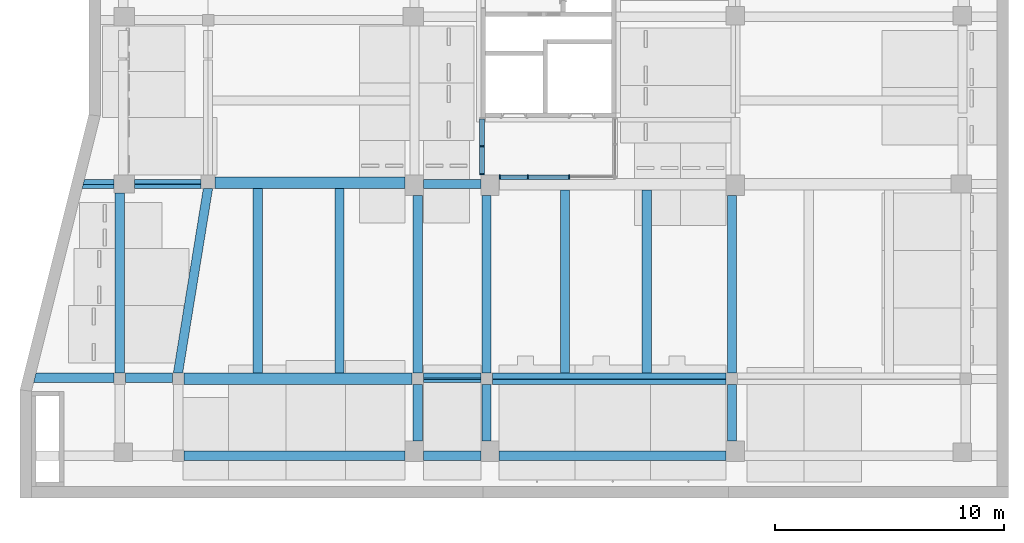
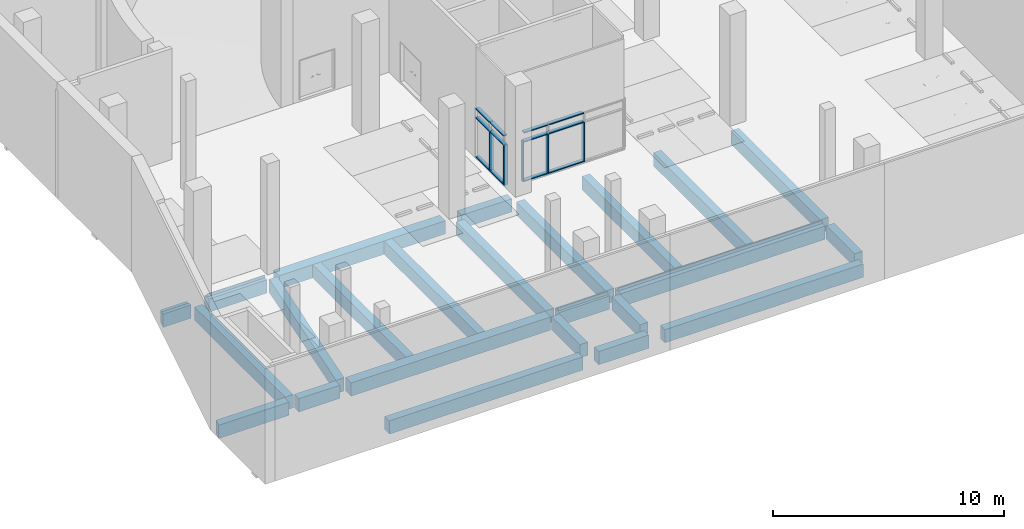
# One storey, part 2 of 29: 24 beams, 17 members, 2 elements without a shape of their own.
"""IFC2X3 building model written with IfcOpenShell, lengths in millimetres."""

from ifc_helpers import new_model, entity, si_unit, converted_unit, derived_unit, direction, frame, frame_2d, origin, origin_2d_with_axis, place, context, subcontext, project, spatial, polyline, rectangle, outline, extrude, clip, halfspace, source, transform, mapped, material, material_list, type_object, type_shapes, element, aggregate, save


model = new_model("IFC2X3")

# Units and contexts
model_context = context("Model", 3, precision=0.01, world=origin(), true_north=direction((6.123031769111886e-17, 1.0)))
body_context = subcontext(model_context, "Body", "Model", "MODEL_VIEW")
ifc_project = project(units=[si_unit("LENGTHUNIT", "METRE", prefix="MILLI"), si_unit("AREAUNIT", "SQUARE_METRE"), si_unit("VOLUMEUNIT", "CUBIC_METRE"), converted_unit("PLANEANGLEUNIT", "DEGREE", entity("IfcRatioMeasure", 0.017453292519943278), si_unit("PLANEANGLEUNIT", "RADIAN"), dimensions=[0, 0, 0, 0, 0, 0, 0]), si_unit("MASSUNIT", "GRAM", prefix="KILO"), derived_unit("MASSDENSITYUNIT", [(si_unit("MASSUNIT", "GRAM", prefix="KILO"), 1), (si_unit("LENGTHUNIT", "METRE"), -3)]), derived_unit("MOMENTOFINERTIAUNIT", [(si_unit("LENGTHUNIT", "METRE"), 4)]), si_unit("TIMEUNIT", "SECOND"), si_unit("FREQUENCYUNIT", "HERTZ"), si_unit("THERMODYNAMICTEMPERATUREUNIT", "DEGREE_CELSIUS"), derived_unit("THERMALTRANSMITTANCEUNIT", [(si_unit("MASSUNIT", "GRAM", prefix="KILO"), 1), (si_unit("THERMODYNAMICTEMPERATUREUNIT", "KELVIN"), -1), (si_unit("TIMEUNIT", "SECOND"), -3)]), derived_unit("VOLUMETRICFLOWRATEUNIT", [(si_unit("LENGTHUNIT", "METRE"), 3), (si_unit("TIMEUNIT", "SECOND"), -1)]), derived_unit("MASSFLOWRATEUNIT", [(si_unit("MASSUNIT", "GRAM", prefix="KILO"), 1), (si_unit("TIMEUNIT", "SECOND"), -1)]), derived_unit("ROTATIONALFREQUENCYUNIT", [(si_unit("TIMEUNIT", "SECOND"), -1)]), si_unit("ELECTRICCURRENTUNIT", "AMPERE"), si_unit("ELECTRICVOLTAGEUNIT", "VOLT"), si_unit("POWERUNIT", "WATT"), si_unit("FORCEUNIT", "NEWTON", prefix="KILO"), si_unit("ILLUMINANCEUNIT", "LUX"), si_unit("LUMINOUSFLUXUNIT", "LUMEN"), si_unit("LUMINOUSINTENSITYUNIT", "CANDELA"), derived_unit("USERDEFINED", [(si_unit("MASSUNIT", "GRAM", prefix="KILO"), -1), (si_unit("LENGTHUNIT", "METRE"), -2), (si_unit("TIMEUNIT", "SECOND"), 3), (si_unit("LUMINOUSFLUXUNIT", "LUMEN"), 1)]), derived_unit("SOUNDPOWERUNIT", [(si_unit("MASSUNIT", "GRAM", prefix="KILO"), 1), (si_unit("LENGTHUNIT", "METRE"), 2), (si_unit("TIMEUNIT", "SECOND"), -3)]), derived_unit("SOUNDPRESSUREUNIT", [(si_unit("MASSUNIT", "GRAM", prefix="KILO"), 1), (si_unit("LENGTHUNIT", "METRE"), -1), (si_unit("TIMEUNIT", "SECOND"), -2)]), derived_unit("LINEARVELOCITYUNIT", [(si_unit("LENGTHUNIT", "METRE"), 1), (si_unit("TIMEUNIT", "SECOND"), -1)]), si_unit("PRESSUREUNIT", "PASCAL"), derived_unit("USERDEFINED", [(si_unit("LENGTHUNIT", "METRE"), -2), (si_unit("MASSUNIT", "GRAM", prefix="KILO"), 1), (si_unit("TIMEUNIT", "SECOND"), -2)]), derived_unit("LINEARFORCEUNIT", [(si_unit("MASSUNIT", "GRAM", prefix="KILO"), 1), (si_unit("LENGTHUNIT", "METRE"), 1), (si_unit("TIMEUNIT", "SECOND"), -2), (si_unit("LENGTHUNIT", "METRE"), -1)]), derived_unit("PLANARFORCEUNIT", [(si_unit("MASSUNIT", "GRAM", prefix="KILO"), 1), (si_unit("LENGTHUNIT", "METRE"), 1), (si_unit("TIMEUNIT", "SECOND"), -2), (si_unit("LENGTHUNIT", "METRE"), -2)])], contexts=[model_context])

# Site, building, storey
site_placement = place(None, frame((-14167.972527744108, -657.2125860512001, 0.0)))
site = spatial("IfcSite", under=ifc_project, at=site_placement, Name="Default", CompositionType="ELEMENT")
building_placement = place(site_placement, origin())
building = spatial("IfcBuilding", under=site, at=building_placement, Name="Sample Building", CompositionType="ELEMENT")
storey_placement = place(building_placement, frame((0.0, 0.0, -6100.0)))
storey = spatial("IfcBuildingStorey", under=building, at=storey_placement, Name="지하1층", CompositionType="ELEMENT", Elevation=-6099.999999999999)

# Curtain wall, members
curtain_wall_type = type_object("IfcCurtainWallType", Name="커튼월:CW112-스테인리스 스틸 커튼월", PredefinedType="NOTDEFINED")
curtain_wall_1_placement = place(storey_placement, frame((0.0, 0.0, 6100.0)))
curtain_wall_1 = element("IfcCurtainWall", 1, at=curtain_wall_1_placement, inside=storey, type_object=curtain_wall_type, Name="커튼월:CW112-스테인리스 스틸 커튼월", ObjectType="커튼월:CW112-스테인리스 스틸 커튼월")
ifc_material_1 = material(Name="<Unnamed>")
member_type_1 = type_object("IfcMemberType", Name="직사각형 멀리언:CW200-직사각형 멀리언 50x200mm", PredefinedType="MULLION", material=ifc_material_1)
shared_shape_1 = source(origin(), body_context, "Body", "SweptSolid", [
    extrude(rectangle(XDim=200.0, YDim=50.0, at=origin_2d_with_axis()), frame((-25.0, 0.0, -1175.0), z_axis=(0.0, 0.0, 1.0), x_axis=(0.0, -1.0, 0.0)), (0.0, 0.0, 1.0), 1175.0000000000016),
])
type_shapes(member_type_1, [shared_shape_1])
member_1_placement = place(curtain_wall_1_placement, frame((30917.97249113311, 12957.21258605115, -5900.0), z_axis=(-1.0, 0.0, 0.0), x_axis=(0.0, 0.0, -1.0)))
member_1 = element("IfcMember", 2, at=member_1_placement, type_object=member_type_1, material=ifc_material_1, Name="직사각형 멀리언:CW200-직사각형 멀리언 50x200mm", ObjectType="직사각형 멀리언:CW200-직사각형 멀리언 50x200mm", context=body_context, shape_type="MappedRepresentation", body=[
    mapped(shared_shape_1, transform((0.0, 0.0, 0.0), scale=1.0)),
])
member_type_2 = type_object("IfcMemberType", Name="직사각형 멀리언:CW200-직사각형 멀리언 50x200mm", PredefinedType="MULLION", material=ifc_material_1)
shared_shape_2 = source(origin(), body_context, "Body", "SweptSolid", [
    extrude(rectangle(XDim=200.0, YDim=50.0, at=origin_2d_with_axis()), frame((-25.0, 0.0, -1175.0), z_axis=(0.0, 0.0, 1.0), x_axis=(0.0, -1.0, 0.0)), (0.0, 0.0, 1.0), 1175.000000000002),
])
type_shapes(member_type_2, [shared_shape_2])
member_2_placement = place(curtain_wall_1_placement, frame((32092.972491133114, 12957.212586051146, -3300.0), z_axis=(1.0, 0.0, 0.0), x_axis=(0.0, 0.0, 1.0)))
member_2 = element("IfcMember", 3, at=member_2_placement, type_object=member_type_2, material=ifc_material_1, Name="직사각형 멀리언:CW200-직사각형 멀리언 50x200mm", ObjectType="직사각형 멀리언:CW200-직사각형 멀리언 50x200mm", context=body_context, shape_type="MappedRepresentation", body=[
    mapped(shared_shape_2, transform((0.0, 0.0, 0.0), scale=1.0)),
])
member_type_3 = type_object("IfcMemberType", Name="직사각형 멀리언:CW200-직사각형 멀리언 50x200mm", PredefinedType="MULLION", material=ifc_material_1)
shared_shape_3 = source(origin(), body_context, "Body", "SweptSolid", [
    extrude(rectangle(XDim=200.0, YDim=50.0, at=origin_2d_with_axis()), frame((0.0, 0.0, -2100.0), z_axis=(0.0, 0.0, 1.0), x_axis=(0.0, -1.0, 0.0)), (0.0, 0.0, 1.0), 2100.0),
])
type_shapes(member_type_3, [shared_shape_3])
member_3_placement = place(curtain_wall_1_placement, frame((32117.97249113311, 12957.212586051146, -5900.0), z_axis=(0.0, 0.0, -1.0), x_axis=(1.0, 0.0, 0.0)))
member_3 = element("IfcMember", 4, at=member_3_placement, type_object=member_type_3, material=ifc_material_1, Name="직사각형 멀리언:CW200-직사각형 멀리언 50x200mm", ObjectType="직사각형 멀리언:CW200-직사각형 멀리언 50x200mm", context=body_context, shape_type="MappedRepresentation", body=[
    mapped(shared_shape_3, transform((0.0, 0.0, 0.0), scale=1.0)),
])
member_4_placement = place(curtain_wall_1_placement, frame((33917.97249113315, 12957.21258605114, -5900.0), z_axis=(0.0, 0.0, -1.0), x_axis=(1.0, 0.0, 0.0)))
member_4 = element("IfcMember", 5, at=member_4_placement, type_object=member_type_3, material=ifc_material_1, Name="직사각형 멀리언:CW200-직사각형 멀리언 50x200mm", ObjectType="직사각형 멀리언:CW200-직사각형 멀리언 50x200mm", context=body_context, shape_type="MappedRepresentation", body=[
    mapped(shared_shape_3, transform((0.0, 0.0, 0.0), scale=1.0)),
])
member_type_4 = type_object("IfcMemberType", Name="직사각형 멀리언:CW200-직사각형 멀리언 50x200mm", PredefinedType="MULLION", material=ifc_material_1)
shared_shape_4 = source(origin(), body_context, "Body", "SweptSolid", [
    extrude(rectangle(XDim=200.0, YDim=50.0, at=origin_2d_with_axis()), frame((-25.0, 0.0, -2100.0), z_axis=(0.0, 0.0, 1.0), x_axis=(0.0, -1.0, 0.0)), (0.0, 0.0, 1.0), 2099.9999999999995),
])
type_shapes(member_type_4, [shared_shape_4])
member_5_placement = place(curtain_wall_1_placement, frame((30867.97249113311, 12957.21258605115, -3800.0), z_axis=(0.0, 0.0, 1.0), x_axis=(-1.0, 0.0, 0.0)))
member_5 = element("IfcMember", 6, at=member_5_placement, type_object=member_type_4, material=ifc_material_1, Name="직사각형 멀리언:CW200-직사각형 멀리언 50x200mm", ObjectType="직사각형 멀리언:CW200-직사각형 멀리언 50x200mm", context=body_context, shape_type="MappedRepresentation", body=[
    mapped(shared_shape_4, transform((0.0, 0.0, 0.0), scale=1.0)),
])
member_type_5 = type_object("IfcMemberType", Name="직사각형 멀리언:CW200-직사각형 멀리언 50x200mm", PredefinedType="MULLION", material=ifc_material_1)
shared_shape_5 = source(origin(), body_context, "Body", "SweptSolid", [
    extrude(rectangle(XDim=200.0, YDim=50.0, at=origin_2d_with_axis()), frame((0.0, 0.0, -1175.0), z_axis=(0.0, 0.0, 1.0), x_axis=(0.0, -1.0, 0.0)), (0.0, 0.0, 1.0), 1175.0000000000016),
])
type_shapes(member_type_5, [shared_shape_5])
member_6_placement = place(curtain_wall_1_placement, frame((32092.972491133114, 12957.212586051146, -3800.0), z_axis=(1.0, 0.0, 0.0), x_axis=(0.0, 0.0, 1.0)))
member_6 = element("IfcMember", 7, at=member_6_placement, type_object=member_type_5, material=ifc_material_1, Name="직사각형 멀리언:CW200-직사각형 멀리언 50x200mm", ObjectType="직사각형 멀리언:CW200-직사각형 멀리언 50x200mm", context=body_context, shape_type="MappedRepresentation", body=[
    mapped(shared_shape_5, transform((0.0, 0.0, 0.0), scale=1.0)),
])

curtain_wall_2_placement = place(storey_placement, frame((0.0, 0.0, 6100.0)))
curtain_wall_2 = element("IfcCurtainWall", 8, at=curtain_wall_2_placement, inside=storey, type_object=curtain_wall_type, Name="커튼월:CW112-스테인리스 스틸 커튼월", ObjectType="커튼월:CW112-스테인리스 스틸 커튼월")
member_type_6 = type_object("IfcMemberType", Name="직사각형 멀리언:CW200-직사각형 멀리언 50x200mm", PredefinedType="MULLION", material=ifc_material_1)
shared_shape_6 = source(origin(), body_context, "Body", "SweptSolid", [
    extrude(rectangle(XDim=200.0, YDim=50.0, at=origin_2d_with_axis()), frame((0.0, 0.0, -2100.0), z_axis=(0.0, 0.0, 1.0), x_axis=(0.0, -1.0, 0.0)), (0.0, 0.0, 1.0), 2100.0),
])
type_shapes(member_type_6, [shared_shape_6])
member_7_placement = place(curtain_wall_2_placement, frame((30116.12581445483, 14305.257627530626, -5900.0), z_axis=(0.0, 0.0, -1.0), x_axis=(0.0, -1.0, 0.0)))
member_7 = element("IfcMember", 9, at=member_7_placement, type_object=member_type_6, material=ifc_material_1, Name="직사각형 멀리언:CW200-직사각형 멀리언 50x200mm", ObjectType="직사각형 멀리언:CW200-직사각형 멀리언 50x200mm", context=body_context, shape_type="MappedRepresentation", body=[
    mapped(shared_shape_6, transform((0.0, 0.0, 0.0), scale=1.0)),
])
member_type_7 = type_object("IfcMemberType", Name="직사각형 멀리언:CW200-직사각형 멀리언 50x200mm", PredefinedType="MULLION", material=ifc_material_1)
shared_shape_7 = source(origin(), body_context, "Body", "SweptSolid", [
    extrude(rectangle(XDim=200.0, YDim=50.0, at=origin_2d_with_axis()), frame((-25.0, 0.0, -1173.045319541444), z_axis=(0.0, 0.0, 1.0), x_axis=(0.0, -1.0, 0.0)), (0.0, 0.0, 1.0), 1173.045319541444),
])
type_shapes(member_type_7, [shared_shape_7])
member_8_placement = place(curtain_wall_2_placement, frame((30116.125814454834, 15503.302947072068, -5900.0), z_axis=(0.0, 1.0, 0.0), x_axis=(0.0, 0.0, -1.0)))
member_8 = element("IfcMember", 10, at=member_8_placement, type_object=member_type_7, material=ifc_material_1, Name="직사각형 멀리언:CW200-직사각형 멀리언 50x200mm", ObjectType="직사각형 멀리언:CW200-직사각형 멀리언 50x200mm", context=body_context, shape_type="MappedRepresentation", body=[
    mapped(shared_shape_7, transform((0.0, 0.0, 0.0), scale=1.0)),
])
member_9_placement = place(curtain_wall_2_placement, frame((30116.12581445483, 14280.257627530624, -5900.0), z_axis=(0.0, 1.0, 0.0), x_axis=(0.0, 0.0, -1.0)))
member_9 = element("IfcMember", 11, at=member_9_placement, type_object=member_type_7, material=ifc_material_1, Name="직사각형 멀리언:CW200-직사각형 멀리언 50x200mm", ObjectType="직사각형 멀리언:CW200-직사각형 멀리언 50x200mm", context=body_context, shape_type="MappedRepresentation", body=[
    mapped(shared_shape_7, transform((0.0, 0.0, 0.0), scale=1.0)),
])
member_type_8 = type_object("IfcMemberType", Name="직사각형 멀리언:CW200-직사각형 멀리언 50x200mm", PredefinedType="MULLION", material=ifc_material_1)
shared_shape_8 = source(origin(), body_context, "Body", "SweptSolid", [
    extrude(rectangle(XDim=200.0, YDim=50.0, at=origin_2d_with_axis()), frame((-25.0, 0.0, -2100.0), z_axis=(0.0, 0.0, 1.0), x_axis=(0.0, -1.0, 0.0)), (0.0, 0.0, 1.0), 2100.0),
])
type_shapes(member_type_8, [shared_shape_8])
member_10_placement = place(curtain_wall_2_placement, frame((30116.12581445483, 13057.212307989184, -5900.0), z_axis=(0.0, 0.0, -1.0), x_axis=(0.0, -1.0, 0.0)))
member_10 = element("IfcMember", 12, at=member_10_placement, type_object=member_type_8, material=ifc_material_1, Name="직사각형 멀리언:CW200-직사각형 멀리언 50x200mm", ObjectType="직사각형 멀리언:CW200-직사각형 멀리언 50x200mm", context=body_context, shape_type="MappedRepresentation", body=[
    mapped(shared_shape_8, transform((0.0, 0.0, 0.0), scale=1.0)),
])
member_type_9 = type_object("IfcMemberType", Name="직사각형 멀리언:CW200-직사각형 멀리언 50x200mm", PredefinedType="MULLION", material=ifc_material_1)
shared_shape_9 = source(origin(), body_context, "Body", "SweptSolid", [
    extrude(rectangle(XDim=200.0, YDim=50.0, at=origin_2d_with_axis()), frame((-25.0, 0.0, -1173.045319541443), z_axis=(0.0, 0.0, 1.0), x_axis=(0.0, -1.0, 0.0)), (0.0, 0.0, 1.0), 1173.045319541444),
])
type_shapes(member_type_9, [shared_shape_9])
member_11_placement = place(curtain_wall_2_placement, frame((30116.12581445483, 13107.212307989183, -3300.0), z_axis=(0.0, -1.0, 0.0), x_axis=(0.0, 0.0, 1.0)))
member_11 = element("IfcMember", 13, at=member_11_placement, type_object=member_type_9, material=ifc_material_1, Name="직사각형 멀리언:CW200-직사각형 멀리언 50x200mm", ObjectType="직사각형 멀리언:CW200-직사각형 멀리언 50x200mm", context=body_context, shape_type="MappedRepresentation", body=[
    mapped(shared_shape_9, transform((0.0, 0.0, 0.0), scale=1.0)),
])
member_12_placement = place(curtain_wall_2_placement, frame((30116.12581445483, 14330.257627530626, -3300.0), z_axis=(0.0, -1.0, 0.0), x_axis=(0.0, 0.0, 1.0)))
member_12 = element("IfcMember", 14, at=member_12_placement, type_object=member_type_9, material=ifc_material_1, Name="직사각형 멀리언:CW200-직사각형 멀리언 50x200mm", ObjectType="직사각형 멀리언:CW200-직사각형 멀리언 50x200mm", context=body_context, shape_type="MappedRepresentation", body=[
    mapped(shared_shape_9, transform((0.0, 0.0, 0.0), scale=1.0)),
])
member_type_10 = type_object("IfcMemberType", Name="직사각형 멀리언:CW200-직사각형 멀리언 50x200mm", PredefinedType="MULLION", material=ifc_material_1)
shared_shape_10 = source(origin(), body_context, "Body", "SweptSolid", [
    extrude(rectangle(XDim=200.0, YDim=50.0, at=origin_2d_with_axis()), frame((0.0, 0.0, -1173.045319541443), z_axis=(0.0, 0.0, 1.0), x_axis=(0.0, -1.0, 0.0)), (0.0, 0.0, 1.0), 1173.045319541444),
])
type_shapes(member_type_10, [shared_shape_10])
member_13_placement = place(curtain_wall_2_placement, frame((30116.12581445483, 14330.257627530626, -3800.0), z_axis=(0.0, -1.0, 0.0), x_axis=(0.0, 0.0, 1.0)))
member_13 = element("IfcMember", 15, at=member_13_placement, type_object=member_type_10, material=ifc_material_1, Name="직사각형 멀리언:CW200-직사각형 멀리언 50x200mm", ObjectType="직사각형 멀리언:CW200-직사각형 멀리언 50x200mm", context=body_context, shape_type="MappedRepresentation", body=[
    mapped(shared_shape_10, transform((0.0, 0.0, 0.0), scale=1.0)),
])
member_14_placement = place(curtain_wall_2_placement, frame((30116.12581445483, 13107.212307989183, -3800.0), z_axis=(0.0, -1.0, 0.0), x_axis=(0.0, 0.0, 1.0)))
member_14 = element("IfcMember", 16, at=member_14_placement, type_object=member_type_10, material=ifc_material_1, Name="직사각형 멀리언:CW200-직사각형 멀리언 50x200mm", ObjectType="직사각형 멀리언:CW200-직사각형 멀리언 50x200mm", context=body_context, shape_type="MappedRepresentation", body=[
    mapped(shared_shape_10, transform((0.0, 0.0, 0.0), scale=1.0)),
])
aggregate(curtain_wall_2, [member_11, member_8, member_10, member_12, member_9, member_7, member_13, member_14])

# Member
member_type_11 = type_object("IfcMemberType", Name="직사각형 멀리언:CW200-직사각형 멀리언 50x200mm", PredefinedType="MULLION", material=ifc_material_1)
shared_shape_11 = source(origin(), body_context, "Body", "SweptSolid", [
    extrude(rectangle(XDim=200.0, YDim=50.0, at=origin_2d_with_axis()), frame((-25.0, 0.0, -1750.0), z_axis=(0.0, 0.0, 1.0), x_axis=(0.0, -1.0, 0.0)), (0.0, 0.0, 1.0), 1750.0000000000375),
])
type_shapes(member_type_11, [shared_shape_11])
member_15_placement = place(curtain_wall_1_placement, frame((32142.97249113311, 12957.212586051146, -5900.0), z_axis=(-1.0, 0.0, 0.0), x_axis=(0.0, 0.0, -1.0)))
member_15 = element("IfcMember", 17, at=member_15_placement, type_object=member_type_11, material=ifc_material_1, Name="직사각형 멀리언:CW200-직사각형 멀리언 50x200mm", ObjectType="직사각형 멀리언:CW200-직사각형 멀리언 50x200mm", context=body_context, shape_type="MappedRepresentation", body=[
    mapped(shared_shape_11, transform((0.0, 0.0, 0.0), scale=1.0)),
])

member_type_12 = type_object("IfcMemberType", Name="직사각형 멀리언:CW200-직사각형 멀리언 50x200mm", PredefinedType="MULLION", material=ifc_material_1)
shared_shape_12 = source(origin(), body_context, "Body", "SweptSolid", [
    extrude(rectangle(XDim=200.0, YDim=50.0, at=origin_2d_with_axis()), frame((0.0, 0.0, -1750.0), z_axis=(0.0, 0.0, 1.0), x_axis=(0.0, -1.0, 0.0)), (0.0, 0.0, 1.0), 1750.0000000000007),
])
type_shapes(member_type_12, [shared_shape_12])
member_16_placement = place(curtain_wall_1_placement, frame((33892.97249113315, 12957.21258605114, -3800.0), z_axis=(1.0, 0.0, 0.0), x_axis=(0.0, 0.0, 1.0)))
member_16 = element("IfcMember", 18, at=member_16_placement, type_object=member_type_12, material=ifc_material_1, Name="직사각형 멀리언:CW200-직사각형 멀리언 50x200mm", ObjectType="직사각형 멀리언:CW200-직사각형 멀리언 50x200mm", context=body_context, shape_type="MappedRepresentation", body=[
    mapped(shared_shape_12, transform((0.0, 0.0, 0.0), scale=1.0)),
])

member_type_13 = type_object("IfcMemberType", Name="직사각형 멀리언:CW200-직사각형 멀리언 50x200mm", PredefinedType="MULLION", material=ifc_material_1)
shared_shape_13 = source(origin(), body_context, "Body", "SweptSolid", [
    extrude(rectangle(XDim=200.0, YDim=50.0, at=origin_2d_with_axis()), frame((-25.0, 0.0, -1750.0), z_axis=(0.0, 0.0, 1.0), x_axis=(0.0, -1.0, 0.0)), (0.0, 0.0, 1.0), 1750.0000000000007),
])
type_shapes(member_type_13, [shared_shape_13])
member_17_placement = place(curtain_wall_1_placement, frame((33892.97249113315, 12957.21258605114, -3300.0), z_axis=(1.0, 0.0, 0.0), x_axis=(0.0, 0.0, 1.0)))
member_17 = element("IfcMember", 19, at=member_17_placement, type_object=member_type_13, material=ifc_material_1, Name="직사각형 멀리언:CW200-직사각형 멀리언 50x200mm", ObjectType="직사각형 멀리언:CW200-직사각형 멀리언 50x200mm", context=body_context, shape_type="MappedRepresentation", body=[
    mapped(shared_shape_13, transform((0.0, 0.0, 0.0), scale=1.0)),
])

aggregate(curtain_wall_1, [member_1, member_5, member_6, member_2, member_15, member_16, member_3, member_17, member_4])

# Beams
ifc_material_2 = material(Name="KBIMS-콘크리트")
beam_type_1 = type_object("IfcBeamType", Name="BM111-철근콘크리트구조 보:BM110-철근 콘크리트구조 보_400 x 850_B1-1G3", PredefinedType="NOTDEFINED")
beam_1_placement = place(storey_placement, frame((14317.955105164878, 4207.21267755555, 0.0), z_axis=(0.0, 0.0, 1.0), x_axis=(-1.0, 6.9259673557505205e-09, 0.0)))
element("IfcBeam", 20, at=beam_1_placement, inside=storey, type_object=beam_type_1, material=ifc_material_2, Name="BM111-철근콘크리트구조 보:BM110-철근 콘크리트구조 보_400 x 850_B1-1G3", ObjectType="BM111-철근콘크리트구조 보:BM110-철근 콘크리트구조 보_400 x 850_B1-1G3", context=body_context, shape_type="SweptSolid", body=[
    clip(extrude(rectangle(XDim=700.0000000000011, YDim=400.0000000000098, at=frame_2d((0.0, -3.510081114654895e-12), x_axis=(1.0, 0.0))), frame((249.99997479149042, 0.0, -500.0), z_axis=(1.0, 0.0, 0.0), x_axis=(0.0, 0.0, -1.0)), (0.0, 0.0, 1.0), 3503.2496648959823), halfspace(frame((3752.7618183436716, 198.04890597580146, -4000.0), z_axis=(0.9701425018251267, -0.24253561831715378, 0.0), x_axis=(-0.24253561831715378, -0.9701425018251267, 0.0)), False)),
])
beam_2_placement = place(storey_placement, frame((14317.955105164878, 4207.212677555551, 0.0)))
element("IfcBeam", 21, at=beam_2_placement, inside=storey, type_object=beam_type_1, material=ifc_material_2, Name="BM111-철근콘크리트구조 보:BM110-철근 콘크리트구조 보_400 x 850_B1-1G3", ObjectType="BM111-철근콘크리트구조 보:BM110-철근 콘크리트구조 보_400 x 850_B1-1G3", context=body_context, shape_type="SweptSolid", body=[
    extrude(rectangle(XDim=700.0000000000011, YDim=400.0000000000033, at=origin_2d_with_axis()), frame((250.0, 0.0, -500.0), z_axis=(1.0, 0.0, 0.0), x_axis=(0.0, 0.0, -1.0)), (0.0, 0.0, 1.0), 2049.991343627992),
])
beam_3_placement = place(storey_placement, frame((27317.955141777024, 1007.2121951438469, 0.0), z_axis=(0.0, 0.0, 1.0), x_axis=(0.0, 1.0, 0.0)))
element("IfcBeam", 22, at=beam_3_placement, inside=storey, type_object=beam_type_1, material=ifc_material_2, Name="BM111-철근콘크리트구조 보:BM110-철근 콘크리트구조 보_400 x 850_B1-1G3", ObjectType="BM111-철근콘크리트구조 보:BM110-철근 콘크리트구조 보_400 x 850_B1-1G3", context=body_context, shape_type="SweptSolid", body=[
    extrude(rectangle(XDim=700.0000000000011, YDim=400.0000000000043, at=frame_2d((0.0, 4.334310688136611e-12), x_axis=(1.0, 0.0))), frame((450.0004090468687, 0.0, -500.0), z_axis=(1.0, 0.0, 0.0), x_axis=(0.0, 0.0, -1.0)), (0.0, 0.0, 1.0), 2450.0000879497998),
])
beam_4_placement = place(storey_placement, frame((30467.95511434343, 807.212604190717, 0.0), z_axis=(0.0, 0.0, 1.0), x_axis=(-1.0, 0.0, 0.0)))
element("IfcBeam", 23, at=beam_4_placement, inside=storey, type_object=beam_type_1, material=ifc_material_2, Name="BM111-철근콘크리트구조 보:BM110-철근 콘크리트구조 보_400 x 850_B1-1G3", ObjectType="BM111-철근콘크리트구조 보:BM110-철근 콘크리트구조 보_400 x 850_B1-1G3", context=body_context, shape_type="SweptSolid", body=[
    extrude(rectangle(XDim=700.0000000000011, YDim=400.00000000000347, at=frame_2d((0.0, -1.7053025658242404e-13), x_axis=(1.0, 0.0))), frame((400.0, 0.0, -500.0), z_axis=(1.0, 0.0, 0.0), x_axis=(0.0, 0.0, -1.0)), (0.0, 0.0, 1.0), 2500.0000091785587),
])
beam_5_placement = place(storey_placement, frame((30317.955114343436, 1007.2121951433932, 0.0), z_axis=(0.0, 0.0, 1.0), x_axis=(0.0, 1.0, 0.0)))
element("IfcBeam", 24, at=beam_5_placement, inside=storey, type_object=beam_type_1, material=ifc_material_2, Name="BM111-철근콘크리트구조 보:BM110-철근 콘크리트구조 보_400 x 850_B1-1G3", ObjectType="BM111-철근콘크리트구조 보:BM110-철근 콘크리트구조 보_400 x 850_B1-1G3", context=body_context, shape_type="SweptSolid", body=[
    extrude(rectangle(XDim=700.0000000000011, YDim=400.0000000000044, at=origin_2d_with_axis()), frame((450.0, 0.0, -500.0), z_axis=(1.0, 0.0, 0.0), x_axis=(0.0, 0.0, -1.0)), (0.0, 0.0, 1.0), 2450.0004969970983),
])
beam_6_placement = place(storey_placement, frame((27167.962965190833, 4207.212677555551, 0.0)))
element("IfcBeam", 25, at=beam_6_placement, inside=storey, type_object=beam_type_1, material=ifc_material_2, Name="BM111-철근콘크리트구조 보:BM110-철근 콘크리트구조 보_400 x 850_B1-1G3", ObjectType="BM111-철근콘크리트구조 보:BM110-철근 콘크리트구조 보_400 x 850_B1-1G3", context=body_context, shape_type="SweptSolid", body=[
    extrude(outline(polyline([(-137.50000000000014, -181.43645849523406), (562.500000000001, -181.43645849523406), (562.500000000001, 218.56354150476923), (-137.50000000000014, 218.56354150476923), (-137.50000000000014, 18.563232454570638), (-287.4999999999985, 18.563232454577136), (-287.4999999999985, -55.69031546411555), (-137.50000000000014, -55.69031546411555), (-137.50000000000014, -181.43645849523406)])), frame((399.9921765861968, -18.563541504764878, -287.5000000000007), z_axis=(1.0, 0.0, 0.0), x_axis=(0.0, 0.0, -1.0)), (0.0, 0.0, 1.0), 2499.999972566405),
])
beam_7_placement = place(storey_placement, frame((14467.955105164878, 12657.212617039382, 0.0), z_axis=(0.0, 0.0, 1.0), x_axis=(-1.0, 0.0, 0.0)))
element("IfcBeam", 26, at=beam_7_placement, inside=storey, type_object=beam_type_1, material=ifc_material_2, Name="BM111-철근콘크리트구조 보:BM110-철근 콘크리트구조 보_400 x 850_B1-1G3", ObjectType="BM111-철근콘크리트구조 보:BM110-철근 콘크리트구조 보_400 x 850_B1-1G3", context=body_context, shape_type="SweptSolid", body=[
    clip(extrude(outline(polyline([(-200.0, -208.08462385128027), (450.0, -208.08462385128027), (450.0, 191.9153761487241), (-250.0, 191.9153761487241), (-250.0, 16.169247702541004), (-200.0, 16.169247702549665), (-200.0, -208.08462385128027)])), frame((400.0, 8.084623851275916, -400.0), z_axis=(1.0, 0.0, 0.0), x_axis=(0.0, 0.0, -1.0)), (0.0, 0.0, 1.0), 1390.7496148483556), halfspace(frame((3902.761819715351, 8648.048819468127, -4000.0), z_axis=(0.9701425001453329, -0.24253562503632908, 0.0), x_axis=(-0.24253562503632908, -0.9701425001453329, 0.0)), False)),
])
beam_8_placement = place(storey_placement, frame((14517.955105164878, 12657.212617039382, 0.0)))
element("IfcBeam", 27, at=beam_8_placement, inside=storey, type_object=beam_type_1, material=ifc_material_2, Name="BM111-철근콘크리트구조 보:BM110-철근 콘크리트구조 보_400 x 850_B1-1G3", ObjectType="BM111-철근콘크리트구조 보:BM110-철근 콘크리트구조 보_400 x 850_B1-1G3", context=body_context, shape_type="SweptSolid", body=[
    extrude(outline(polyline([(-150.0, -193.93645484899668), (550.0, -193.93645484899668), (550.0, 206.06354515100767), (-100.0, 206.06354515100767), (-100.0, 6.063236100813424), (-300.0, 6.0632361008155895), (-300.0, -18.19032640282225), (-150.0, -18.19032640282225), (-150.0, -193.93645484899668)])), frame((450.0, -6.063545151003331, -300.0), z_axis=(1.0, 0.0, 0.0), x_axis=(0.0, 0.0, -1.0)), (0.0, 0.0, 1.0), 2899.9913436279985),
])
beam_9_placement = place(storey_placement, frame((27567.955141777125, 12657.212617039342, 0.0)))
element("IfcBeam", 28, at=beam_9_placement, inside=storey, type_object=beam_type_1, material=ifc_material_2, Name="BM111-철근콘크리트구조 보:BM110-철근 콘크리트구조 보_400 x 850_B1-1G3", ObjectType="BM111-철근콘크리트구조 보:BM110-철근 콘크리트구조 보_400 x 850_B1-1G3", context=body_context, shape_type="SweptSolid", body=[
    extrude(rectangle(XDim=700.0000000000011, YDim=400.00000000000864, at=frame_2d((0.0, -6.494360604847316e-12), x_axis=(1.0, 0.0))), frame((0.0, 0.0, -500.0), z_axis=(1.0, 0.0, 0.0), x_axis=(0.0, 0.0, -1.0)), (0.0, 0.0, 1.0), 2499.9999725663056),
])
beam_10_placement = place(storey_placement, frame((41017.955141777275, 1007.2121951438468, 0.0), z_axis=(0.0, 0.0, 1.0), x_axis=(0.0, 1.0, 0.0)))
element("IfcBeam", 29, at=beam_10_placement, inside=storey, type_object=beam_type_1, material=ifc_material_2, Name="BM111-철근콘크리트구조 보:BM110-철근 콘크리트구조 보_400 x 850_B1-1G3", ObjectType="BM111-철근콘크리트구조 보:BM110-철근 콘크리트구조 보_400 x 850_B1-1G3", context=body_context, shape_type="SweptSolid", body=[
    extrude(rectangle(XDim=700.0000000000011, YDim=400.0000000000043, at=frame_2d((0.0, 4.334310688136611e-12), x_axis=(1.0, 0.0))), frame((450.0, 0.0, -500.0), z_axis=(1.0, 0.0, 0.0), x_axis=(0.0, 0.0, -1.0)), (0.0, 0.0, 1.0), 2450.0004969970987),
])
beam_type_2 = type_object("IfcBeamType", Name="BM111-철근콘크리트구조 보:BM110-철근 콘크리트구조 보_400 x 850_B1-1G1", PredefinedType="NOTDEFINED")
beam_11_placement = place(storey_placement, frame((26767.93775580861, 807.212604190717, 0.0), z_axis=(0.0, 0.0, 1.0), x_axis=(-1.0, 0.0, 0.0)))
element("IfcBeam", 30, at=beam_11_placement, inside=storey, type_object=beam_type_2, material=ifc_material_2, Name="BM111-철근콘크리트구조 보:BM110-철근 콘크리트구조 보_400 x 850_B1-1G1", ObjectType="BM111-철근콘크리트구조 보:BM110-철근 콘크리트구조 보_400 x 850_B1-1G1", context=body_context, shape_type="SweptSolid", body=[
    extrude(rectangle(XDim=700.0000000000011, YDim=400.00000000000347, at=frame_2d((0.0, -2.842170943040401e-14), x_axis=(1.0, 0.0))), frame((0.0, 0.0, -500.0), z_axis=(1.0, 0.0, 0.0), x_axis=(0.0, 0.0, -1.0)), (0.0, 0.0, 1.0), 9649.99130701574),
])
beam_12_placement = place(storey_placement, frame((30467.95511434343, 807.212604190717, 0.0)))
element("IfcBeam", 31, at=beam_12_placement, inside=storey, type_object=beam_type_2, material=ifc_material_2, Name="BM111-철근콘크리트구조 보:BM110-철근 콘크리트구조 보_400 x 850_B1-1G1", ObjectType="BM111-철근콘크리트구조 보:BM110-철근 콘크리트구조 보_400 x 850_B1-1G1", context=body_context, shape_type="SweptSolid", body=[
    extrude(rectangle(XDim=700.0000000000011, YDim=400.0000000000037, at=frame_2d((0.0, -1.9895196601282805e-13), x_axis=(1.0, 0.0))), frame((400.0, 0.0, -500.0), z_axis=(1.0, 0.0, 0.0), x_axis=(0.0, 0.0, -1.0)), (0.0, 0.0, 1.0), 9899.999920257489),
])
beam_type_3 = type_object("IfcBeamType", Name="BM111-철근콘크리트구조 보:BM110-철근 콘크리트구조 보_500 x 850_B1-1G5", PredefinedType="NOTDEFINED")
beam_13_placement = place(storey_placement, frame((27167.955141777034, 4157.2126921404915, 0.0), z_axis=(0.0, 0.0, 1.0), x_axis=(-1.0, 0.0, 0.0)))
element("IfcBeam", 32, at=beam_13_placement, inside=storey, type_object=beam_type_3, material=ifc_material_2, Name="BM111-철근콘크리트구조 보:BM110-철근 콘크리트구조 보_500 x 850_B1-1G5", ObjectType="BM111-철근콘크리트구조 보:BM110-철근 콘크리트구조 보_500 x 850_B1-1G5", context=body_context, shape_type="SweptSolid", body=[
    extrude(rectangle(XDim=700.0000000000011, YDim=500.0000000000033, at=origin_2d_with_axis()), frame((100.0, 0.0, -500.0), z_axis=(1.0, 0.0, 0.0), x_axis=(0.0, 0.0, -1.0)), (0.0, 0.0, 1.0), 9950.008692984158),
])
beam_14_placement = place(storey_placement, frame((30467.955141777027, 4157.212692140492, 0.0)))
element("IfcBeam", 33, at=beam_14_placement, inside=storey, type_object=beam_type_3, material=ifc_material_2, Name="BM111-철근콘크리트구조 보:BM110-철근 콘크리트구조 보_500 x 850_B1-1G5", ObjectType="BM111-철근콘크리트구조 보:BM110-철근 콘크리트구조 보_500 x 850_B1-1G5", context=body_context, shape_type="SweptSolid", body=[
    extrude(outline(polyline([(-137.49999999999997, -243.9364548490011), (562.5000000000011, -243.9364548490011), (562.5000000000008, 256.0635451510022), (-137.5000000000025, 256.0635451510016), (-137.5000000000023, 6.063236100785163), (-287.4999999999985, 6.063236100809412), (-287.4999999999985, -18.19032640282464), (-137.5000000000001, -18.19032640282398), (-137.49999999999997, -243.9364548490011)])), frame((99.9999725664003, -6.063545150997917, -287.5000000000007), z_axis=(1.0, 0.0, 0.0), x_axis=(0.0, 0.0, -1.0)), (0.0, 0.0, 1.0), 10200.000027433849),
])
beam_15_placement = place(storey_placement, frame((27217.96296519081, 12707.212895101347, 0.0), z_axis=(0.0, 0.0, 1.0), x_axis=(-1.0, 0.0, 0.0)))
element("IfcBeam", 34, at=beam_15_placement, inside=storey, type_object=beam_type_3, material=ifc_material_2, Name="BM111-철근콘크리트구조 보:BM110-철근 콘크리트구조 보_500 x 850_B1-1G5", ObjectType="BM111-철근콘크리트구조 보:BM110-철근 콘크리트구조 보_500 x 850_B1-1G5", context=body_context, shape_type="SweptSolid", body=[
    extrude(rectangle(XDim=700.0000000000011, YDim=500.0000000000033, at=origin_2d_with_axis()), frame((450.0078234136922, 0.0, -500.0), z_axis=(1.0, 0.0, 0.0), x_axis=(0.0, 0.0, -1.0)), (0.0, 0.0, 1.0), 8300.008692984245),
])
ifc_material_list = material_list([ifc_material_2, ifc_material_2])
beam_type_4 = type_object("IfcBeamType", Name="BM111-철근콘크리트구조 보:BM110-철근 콘크리트구조 보_400 x 850_B1-1G2", PredefinedType="BEAM", material=ifc_material_list)
beam_16_placement = place(storey_placement, frame((14317.955105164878, 12657.212617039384, 0.0), z_axis=(0.0, 0.0, 1.0), x_axis=(0.0, -1.0, 0.0)))
element("IfcBeam", 35, at=beam_16_placement, inside=storey, type_object=beam_type_4, material=ifc_material_2, Name="BM111-철근콘크리트구조 보:BM110-철근 콘크리트구조 보_400 x 850_B1-1G2", ObjectType="BM111-철근콘크리트구조 보:BM110-철근 콘크리트구조 보_400 x 850_B1-1G2", context=body_context, shape_type="SweptSolid", body=[
    extrude(rectangle(XDim=700.0000000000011, YDim=400.00000000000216, at=frame_2d((0.0, 1.0942358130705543e-12), x_axis=(1.0, 0.0))), frame((400.0, 0.0, -500.0), z_axis=(1.0, 0.0, 0.0), x_axis=(0.0, 0.0, -1.0)), (0.0, 0.0, 1.0), 7849.999924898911),
])
beam_17_placement = place(storey_placement, frame((18212.67778403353, 12748.626420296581, 0.0), z_axis=(0.0, 0.0, 1.0), x_axis=(-0.16039607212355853, -0.9870527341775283, 0.0)))
element("IfcBeam", 36, at=beam_17_placement, inside=storey, type_object=beam_type_4, material=ifc_material_2, Name="BM111-철근콘크리트구조 보:BM110-철근 콘크리트구조 보_400 x 850_B1-1G2", ObjectType="BM111-철근콘크리트구조 보:BM110-철근 콘크리트구조 보_400 x 850_B1-1G2", context=body_context, shape_type="SweptSolid", body=[
    clip(clip(extrude(rectangle(XDim=700.0000000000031, YDim=400.0000530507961, at=frame_2d((0.0, -2.6525397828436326e-05), x_axis=(1.0, 7.578684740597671e-08))), frame((262.7360239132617, 0.0, -500.0), z_axis=(1.0, 0.0, 0.0), x_axis=(0.0, 0.0, -1.0)), (0.0, 0.0, 1.0), 8220.592832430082), halfspace(frame((8409.00583348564, 257.3724403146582, 0.0), z_axis=(0.9870527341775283, 0.16039607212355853, 0.0), x_axis=(0.0, 0.0, -1.0)), False)), halfspace(frame((246.69510107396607, 298.7133695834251, -850.0), z_axis=(-0.9870527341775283, -0.16039607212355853, 0.0), x_axis=(-0.16039607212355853, 0.9870527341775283, 0.0)), False)),
])
beam_18_placement = place(storey_placement, frame((27317.955141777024, 12607.212617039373, 0.0), z_axis=(0.0, 0.0, 1.0), x_axis=(0.0, -1.0, 0.0)))
element("IfcBeam", 37, at=beam_18_placement, inside=storey, type_object=beam_type_4, material=ifc_material_2, Name="BM111-철근콘크리트구조 보:BM110-철근 콘크리트구조 보_400 x 850_B1-1G2", ObjectType="BM111-철근콘크리트구조 보:BM110-철근 콘크리트구조 보_400 x 850_B1-1G2", context=body_context, shape_type="SweptSolid", body=[
    extrude(rectangle(XDim=700.0000000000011, YDim=400.0000000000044, at=origin_2d_with_axis()), frame((450.0, 0.0, -500.0), z_axis=(1.0, 0.0, 0.0), x_axis=(0.0, 0.0, -1.0)), (0.0, 0.0, 1.0), 7749.999924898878),
])
beam_19_placement = place(storey_placement, frame((30317.95511434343, 12607.21301186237, 0.0), z_axis=(0.0, 0.0, 1.0), x_axis=(0.0, -1.0, 0.0)))
element("IfcBeam", 38, at=beam_19_placement, inside=storey, type_object=beam_type_4, material=ifc_material_2, Name="BM111-철근콘크리트구조 보:BM110-철근 콘크리트구조 보_400 x 850_B1-1G2", ObjectType="BM111-철근콘크리트구조 보:BM110-철근 콘크리트구조 보_400 x 850_B1-1G2", context=body_context, shape_type="SweptSolid", body=[
    extrude(rectangle(XDim=700.0000000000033, YDim=400.0000000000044, at=frame_2d((-1.0800249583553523e-12, 0.0), x_axis=(1.0, 0.0))), frame((450.00039482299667, 0.0, -500.0), z_axis=(1.0, 0.0, 0.0), x_axis=(0.0, 0.0, -1.0)), (0.0, 0.0, 1.0), 7749.999924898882),
])
beam_20_placement = place(storey_placement, frame((41017.955141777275, 12607.212617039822, 0.0), z_axis=(0.0, 0.0, 1.0), x_axis=(0.0, -1.0, 0.0)))
element("IfcBeam", 39, at=beam_20_placement, inside=storey, type_object=beam_type_4, material=ifc_material_2, Name="BM111-철근콘크리트구조 보:BM110-철근 콘크리트구조 보_400 x 850_B1-1G2", ObjectType="BM111-철근콘크리트구조 보:BM110-철근 콘크리트구조 보_400 x 850_B1-1G2", context=body_context, shape_type="SweptSolid", body=[
    extrude(rectangle(XDim=700.0000000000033, YDim=400.0000000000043, at=frame_2d((-1.0800249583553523e-12, 4.334310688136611e-12), x_axis=(1.0, 0.0))), frame((450.0, 0.0, -500.0), z_axis=(1.0, 0.0, 0.0), x_axis=(0.0, 0.0, -1.0)), (0.0, 0.0, 1.0), 7749.999924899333),
])
beam_type_5 = type_object("IfcBeamType", Name="BM111-철근콘크리트구조 보:BM110-철근 콘크리트구조 보_400 x 800_B1-1B2", PredefinedType="NOTDEFINED")
for number, where, z_axis, x_axis in (
    (40, (20334.62963185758, 12707.212895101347, 0.0), (0.0, 0.0, 1.0), (0.0, -1.0, 0.0)),
    (41, (23901.29629852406, 12707.212895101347, 0.0), (0.0, 0.0, 1.0), (0.0, -1.0, 0.0)),
):
    element("IfcBeam", number, at=place(storey_placement, frame(where, z_axis=z_axis, x_axis=x_axis)), inside=storey, type_object=beam_type_5, material=ifc_material_2, Name="BM111-철근콘크리트구조 보:BM110-철근 콘크리트구조 보_400 x 800_B1-1B2", ObjectType="BM111-철근콘크리트구조 보:BM110-철근 콘크리트구조 보_400 x 800_B1-1B2", context=body_context, shape_type="SweptSolid", body=[
        extrude(rectangle(XDim=700.0000000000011, YDim=400.0000000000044, at=origin_2d_with_axis()), frame((250.0, 0.0, -500.0), z_axis=(1.0, 0.0, 0.0), x_axis=(0.0, 0.0, -1.0)), (0.0, 0.0, 1.0), 8050.000202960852),
    ])
for number, where, z_axis, x_axis in (
    (42, (33734.613115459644, 12657.21261703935, 0.0), (0.0, 0.0, 1.0), (0.0, -1.0, 0.0)),
    (43, (37301.279782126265, 12657.212617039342, 0.0), (0.0, 0.0, 1.0), (0.0, -1.0, 0.0)),
):
    element("IfcBeam", number, at=place(storey_placement, frame(where, z_axis=z_axis, x_axis=x_axis)), inside=storey, type_object=beam_type_5, material=ifc_material_2, Name="BM111-철근콘크리트구조 보:BM110-철근 콘크리트구조 보_400 x 800_B1-1B2", ObjectType="BM111-철근콘크리트구조 보:BM110-철근 콘크리트구조 보_400 x 800_B1-1B2", context=body_context, shape_type="SweptSolid", body=[
        extrude(rectangle(XDim=700.0000000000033, YDim=400.0000000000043, at=frame_2d((-1.0800249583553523e-12, -4.334310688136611e-12), x_axis=(1.0, 0.0))), frame((250.0, 0.0, -500.0), z_axis=(1.0, 0.0, 0.0), x_axis=(0.0, 0.0, -1.0)), (0.0, 0.0, 1.0), 7999.999924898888),
    ])

save(model, "model.ifc")
